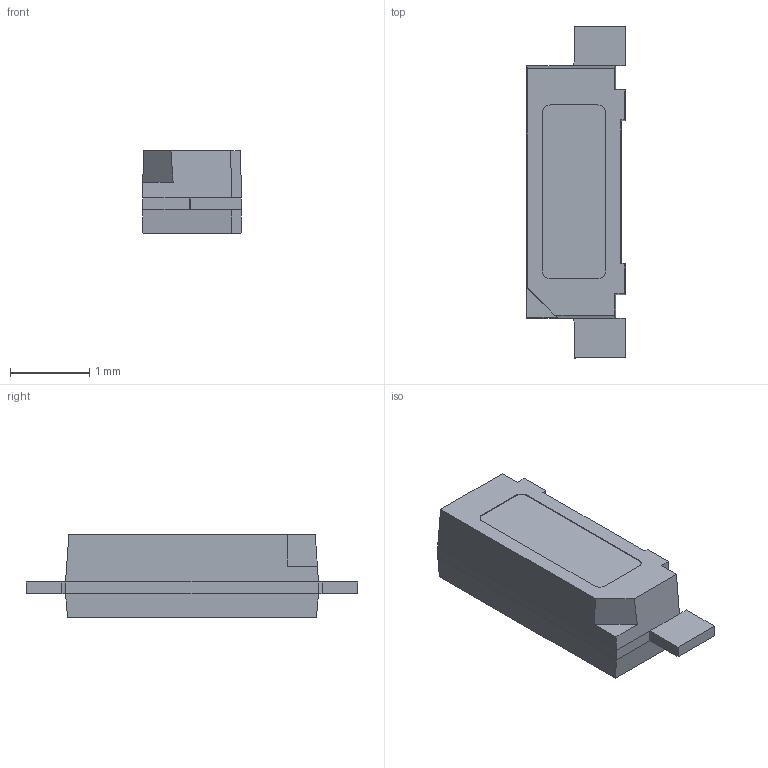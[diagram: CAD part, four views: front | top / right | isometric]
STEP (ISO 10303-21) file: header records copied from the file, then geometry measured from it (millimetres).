
FILE_DESCRIPTION(('STEP AP203'),'1');
FILE_NAME('//domi12/dept/RnD/FAE/3D Model/Drawing/DSA-MHS/DSA-MHS_060921.stp','2021-09-06T03:24:15',(' '),(' '),'Spatial InterOp 3D',' ',' ');
FILE_SCHEMA(('CONFIG_CONTROL_DESIGN'));
Length unit declared in the file: millimetre
Products named in the file (1): 1
Bounding box: 1.25 x 4.2 x 1.05 mm (x, y, z)
Volume: 4 mm3; surface area: 18.4 mm2
Topology: 1 solids, 1 shells, 67 faces, 160 edges, 96 vertices
Faces by surface type: plane 57, cylinder 10
Entity records: 1922 total; most frequent: CARTESIAN_POINT 324, ORIENTED_EDGE 320, DIRECTION 316, EDGE_CURVE 160, LINE 140, VECTOR 140, VERTEX_POINT 96, AXIS2_PLACEMENT_3D 88
